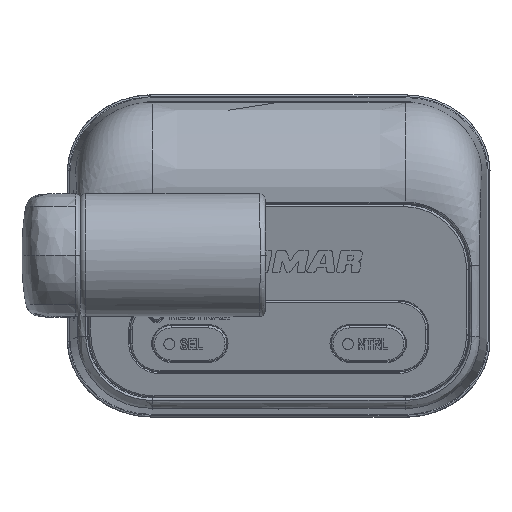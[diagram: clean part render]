
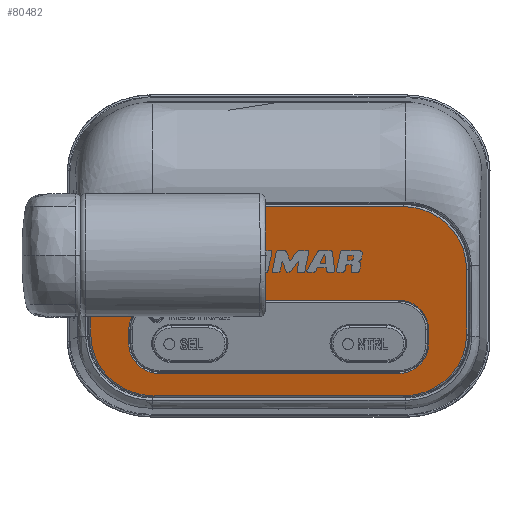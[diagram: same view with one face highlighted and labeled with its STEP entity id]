
A CAD part, top view. The second image highlights one B-rep face of the part: STEP entity #80482.
In plain terms, the highlighted planar face has unit normal (0, -0.28, 0.96).
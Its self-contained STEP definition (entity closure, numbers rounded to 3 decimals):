
#79462=DIRECTION('',(0.,-0.96,-0.28));
#79463=VECTOR('',#79462,18.302);
#79464=CARTESIAN_POINT('',(50.509,-3.794,
72.852));
#79465=LINE('',#79464,#79463);
#79489=DIRECTION('',(-1.,0.,0.));
#79490=VECTOR('',#79489,67.);
#79491=CARTESIAN_POINT('',(33.509,-37.684,
62.967));
#79492=LINE('',#79491,#79490);
#79512=DIRECTION('',(0.,0.96,0.28));
#79513=VECTOR('',#79512,18.302);
#79514=CARTESIAN_POINT('',(-50.491,-21.364,
67.727));
#79515=LINE('',#79514,#79513);
#79526=DIRECTION('',(1.,0.,0.));
#79527=VECTOR('',#79526,67.);
#79528=CARTESIAN_POINT('',(-33.491,13.102,
77.78));
#79529=LINE('',#79528,#79527);
#79534=CARTESIAN_POINT('',(-31.991,-23.764,
67.027));
#79535=DIRECTION('',(0.,0.28,-0.96));
#79536=DIRECTION('',(0.,-0.96,-0.28));
#79537=AXIS2_PLACEMENT_3D('',#79534,#79535,#79536);
#79539=CARTESIAN_POINT('',(32.009,-23.764,
67.027));
#79540=DIRECTION('',(0.,0.28,-0.96));
#79541=DIRECTION('',(1.,0.,0.));
#79542=AXIS2_PLACEMENT_3D('',#79539,#79540,#79541);
#79544=CARTESIAN_POINT('',(32.009,-19.924,
68.147));
#79545=DIRECTION('',(0.,0.28,-0.96));
#79546=DIRECTION('',(0.,0.96,0.28));
#79547=AXIS2_PLACEMENT_3D('',#79544,#79545,#79546);
#79549=CARTESIAN_POINT('',(-31.991,-19.924,
68.147));
#79550=DIRECTION('',(0.,0.28,-0.96));
#79551=DIRECTION('',(-1.,0.,0.));
#79552=AXIS2_PLACEMENT_3D('',#79549,#79550,#79551);
#79554=CARTESIAN_POINT('',(50.509,-3.794,
72.852));
#79555=CARTESIAN_POINT('',(50.509,-1.581,
73.497));
#79556=CARTESIAN_POINT('',(49.625,2.84,74.787));
#79557=CARTESIAN_POINT('',(45.844,8.465,76.427));
#79558=CARTESIAN_POINT('',(40.184,12.223,77.523));
#79559=CARTESIAN_POINT('',(35.735,13.102,77.78));
#79560=CARTESIAN_POINT('',(33.509,13.102,77.78));
#79562=CARTESIAN_POINT('',(33.509,-21.364,
67.727));
#79563=DIRECTION('',(0.,-0.28,0.96));
#79564=DIRECTION('',(0.,-0.96,-0.28));
#79565=AXIS2_PLACEMENT_3D('',#79562,#79563,#79564);
#79567=CARTESIAN_POINT('',(-33.491,-21.364,
67.727));
#79568=DIRECTION('',(0.,-0.28,0.96));
#79569=DIRECTION('',(-1.,0.,0.));
#79570=AXIS2_PLACEMENT_3D('',#79567,#79568,#79569);
#79572=CARTESIAN_POINT('',(-33.491,13.102,
77.78));
#79573=CARTESIAN_POINT('',(-35.716,13.102,
77.78));
#79574=CARTESIAN_POINT('',(-40.166,12.223,
77.523));
#79575=CARTESIAN_POINT('',(-45.825,8.465,
76.427));
#79576=CARTESIAN_POINT('',(-49.606,2.84,
74.787));
#79577=CARTESIAN_POINT('',(-50.491,-1.581,
73.497));
#79578=CARTESIAN_POINT('',(-50.491,-3.794,
72.852));
#79595=DIRECTION('',(1.,0.,0.));
#79596=VECTOR('',#79595,64.);
#79597=CARTESIAN_POINT('',(-31.991,-31.732,
64.703));
#79598=LINE('',#79597,#79596);
#79618=DIRECTION('',(0.,0.96,0.28));
#79619=VECTOR('',#79618,4.);
#79620=CARTESIAN_POINT('',(40.309,-23.764,
67.027));
#79621=LINE('',#79620,#79619);
#79645=DIRECTION('',(-1.,0.,0.));
#79646=VECTOR('',#79645,64.);
#79647=CARTESIAN_POINT('',(32.009,-11.956,
70.471));
#79648=LINE('',#79647,#79646);
#79664=DIRECTION('',(0.,-0.96,-0.28));
#79665=VECTOR('',#79664,4.);
#79666=CARTESIAN_POINT('',(-40.291,-19.924,
68.147));
#79667=LINE('',#79666,#79665);
#79834=CARTESIAN_POINT('',(33.509,-37.684,
62.967));
#79835=VERTEX_POINT('',#79834);
#79836=CARTESIAN_POINT('',(50.509,-21.364,
67.727));
#79837=VERTEX_POINT('',#79836);
#79838=CARTESIAN_POINT('',(50.509,-3.794,
72.852));
#79839=VERTEX_POINT('',#79838);
#79840=CARTESIAN_POINT('',(-33.491,-37.684,
62.967));
#79841=VERTEX_POINT('',#79840);
#79842=CARTESIAN_POINT('',(33.509,13.102,77.78));
#79843=VERTEX_POINT('',#79842);
#79844=CARTESIAN_POINT('',(-50.491,-21.364,
67.727));
#79845=VERTEX_POINT('',#79844);
#79846=CARTESIAN_POINT('',(-33.491,13.102,
77.78));
#79847=VERTEX_POINT('',#79846);
#79848=CARTESIAN_POINT('',(-50.491,-3.794,
72.852));
#79849=VERTEX_POINT('',#79848);
#79866=CARTESIAN_POINT('',(40.309,-19.924,
68.147));
#79867=VERTEX_POINT('',#79866);
#79868=CARTESIAN_POINT('',(40.309,-23.764,
67.027));
#79869=VERTEX_POINT('',#79868);
#79870=CARTESIAN_POINT('',(32.009,-31.732,
64.703));
#79871=VERTEX_POINT('',#79870);
#79872=CARTESIAN_POINT('',(32.009,-11.956,
70.471));
#79873=VERTEX_POINT('',#79872);
#79874=CARTESIAN_POINT('',(-31.991,-31.732,
64.703));
#79875=VERTEX_POINT('',#79874);
#79876=CARTESIAN_POINT('',(-31.991,-11.956,
70.471));
#79877=VERTEX_POINT('',#79876);
#79878=CARTESIAN_POINT('',(-40.291,-23.764,
67.027));
#79879=VERTEX_POINT('',#79878);
#79880=CARTESIAN_POINT('',(-40.291,-19.924,
68.147));
#79881=VERTEX_POINT('',#79880);
#80449=CARTESIAN_POINT('',(-0.491,-25.115,
66.633));
#80450=DIRECTION('',(0.,-0.28,0.96));
#80451=DIRECTION('',(1.,0.,0.));
#80452=AXIS2_PLACEMENT_3D('',#80449,#80450,#80451);
#80453=PLANE('',#80452);
#80454=ORIENTED_EDGE('',*,*,#80442,.T.);
#80455=ORIENTED_EDGE('',*,*,#80308,.F.);
#80456=ORIENTED_EDGE('',*,*,#80323,.T.);
#80457=ORIENTED_EDGE('',*,*,#80337,.F.);
#80458=ORIENTED_EDGE('',*,*,#80353,.T.);
#80459=ORIENTED_EDGE('',*,*,#80367,.F.);
#80460=ORIENTED_EDGE('',*,*,#80381,.T.);
#80461=ORIENTED_EDGE('',*,*,#80429,.F.);
#80462=EDGE_LOOP('',(#80454,#80455,#80456,#80457,#80458,#80459,#80460,#80461));
#80463=FACE_OUTER_BOUND('',#80462,.F.);
#80465=ORIENTED_EDGE('',*,*,#80464,.F.);
#80467=ORIENTED_EDGE('',*,*,#80466,.T.);
#80469=ORIENTED_EDGE('',*,*,#80468,.F.);
#80471=ORIENTED_EDGE('',*,*,#80470,.T.);
#80473=ORIENTED_EDGE('',*,*,#80472,.F.);
#80475=ORIENTED_EDGE('',*,*,#80474,.T.);
#80477=ORIENTED_EDGE('',*,*,#80476,.F.);
#80479=ORIENTED_EDGE('',*,*,#80478,.T.);
#80480=EDGE_LOOP('',(#80465,#80467,#80469,#80471,#80473,#80475,#80477,#80479));
#80481=FACE_BOUND('',#80480,.F.);
#80482=ADVANCED_FACE('',(#80463,#80481),#80453,.T.);
#79538=CIRCLE('',#79537,8.3);
#79543=CIRCLE('',#79542,8.3);
#79548=CIRCLE('',#79547,8.3);
#79553=CIRCLE('',#79552,8.3);
#79561=B_SPLINE_CURVE_WITH_KNOTS('',3,(#79554,#79555,#79556,#79557,#79558,
#79559,#79560),.UNSPECIFIED.,.F.,.F.,(4,1,1,1,4),(0.,0.25,0.5,0.75,
1.),.UNSPECIFIED.);
#79566=CIRCLE('',#79565,17.);
#79571=CIRCLE('',#79570,17.);
#79579=B_SPLINE_CURVE_WITH_KNOTS('',3,(#79572,#79573,#79574,#79575,#79576,
#79577,#79578),.UNSPECIFIED.,.F.,.F.,(4,1,1,1,4),(0.,0.25,0.5,0.75,
1.),.UNSPECIFIED.);
#80308=EDGE_CURVE('',#79839,#79843,#79561,.T.);
#80323=EDGE_CURVE('',#79839,#79837,#79465,.T.);
#80337=EDGE_CURVE('',#79835,#79837,#79566,.T.);
#80353=EDGE_CURVE('',#79835,#79841,#79492,.T.);
#80367=EDGE_CURVE('',#79845,#79841,#79571,.T.);
#80381=EDGE_CURVE('',#79845,#79849,#79515,.T.);
#80429=EDGE_CURVE('',#79847,#79849,#79579,.T.);
#80442=EDGE_CURVE('',#79847,#79843,#79529,.T.);
#80464=EDGE_CURVE('',#79875,#79879,#79538,.T.);
#80466=EDGE_CURVE('',#79875,#79871,#79598,.T.);
#80468=EDGE_CURVE('',#79869,#79871,#79543,.T.);
#80470=EDGE_CURVE('',#79869,#79867,#79621,.T.);
#80472=EDGE_CURVE('',#79873,#79867,#79548,.T.);
#80474=EDGE_CURVE('',#79873,#79877,#79648,.T.);
#80476=EDGE_CURVE('',#79881,#79877,#79553,.T.);
#80478=EDGE_CURVE('',#79881,#79879,#79667,.T.);
